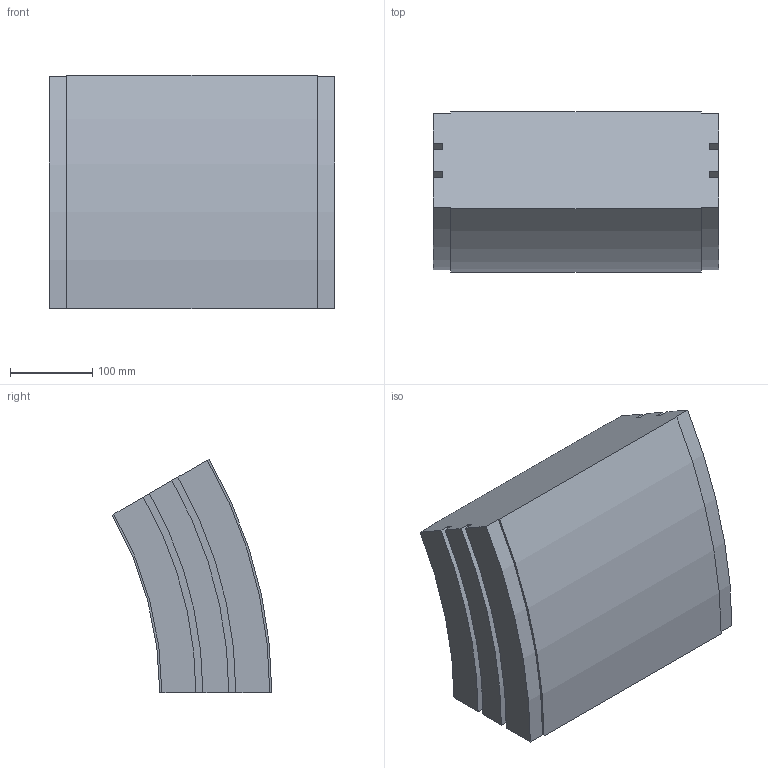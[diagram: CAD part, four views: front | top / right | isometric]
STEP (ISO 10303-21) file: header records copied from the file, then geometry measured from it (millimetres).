
FILE_DESCRIPTION (( 'STEP AP214' ), '1' );
FILE_NAME ('02.150V30.350.N FS-350-MTC-150 Bocht verticaal 30°.STEP', '2013-03-21T10:51:39', ( 'Gebruiker' ), ( '' ), 'SwSTEP 2.0', 'SolidWorks 2012', '' );
FILE_SCHEMA (( 'AUTOMOTIVE_DESIGN' ));
Length unit declared in the file: millimetre
Products named in the file (1): 02.150V30.350.N FS-350-MTC-150 Bocht verticaal 30°
Bounding box: 346 x 193.88 x 284 mm (x, y, z)
Volume: 12166341.1 mm3; surface area: 368357 mm2
Topology: 1 solids, 1 shells, 30 faces, 84 edges, 56 vertices
Faces by surface type: plane 16, cylinder 14
Entity records: 1010 total; most frequent: DIRECTION 174, CARTESIAN_POINT 171, ORIENTED_EDGE 168, EDGE_CURVE 84, AXIS2_PLACEMENT_3D 59, VECTOR 56, LINE 56, VERTEX_POINT 56
